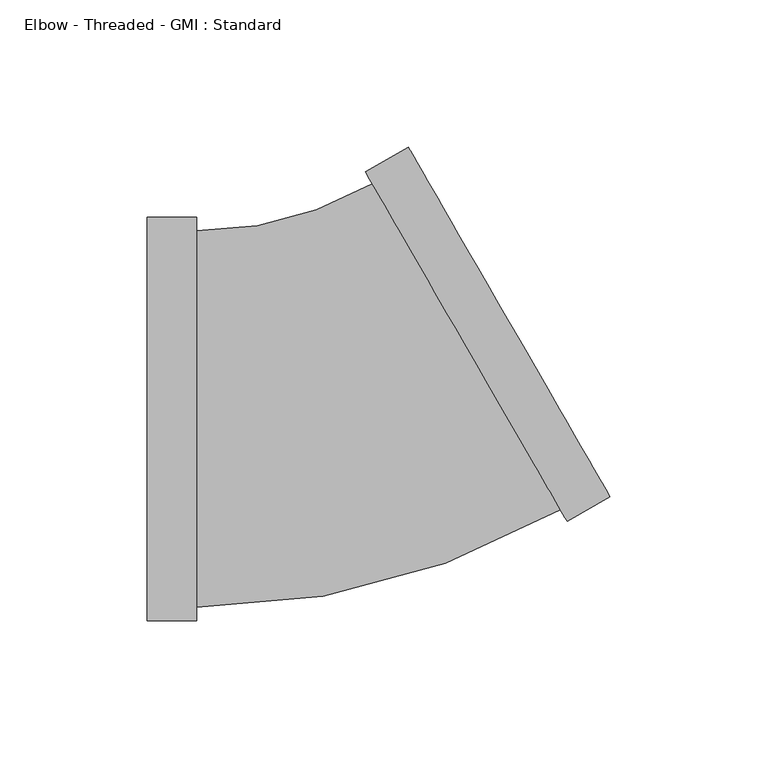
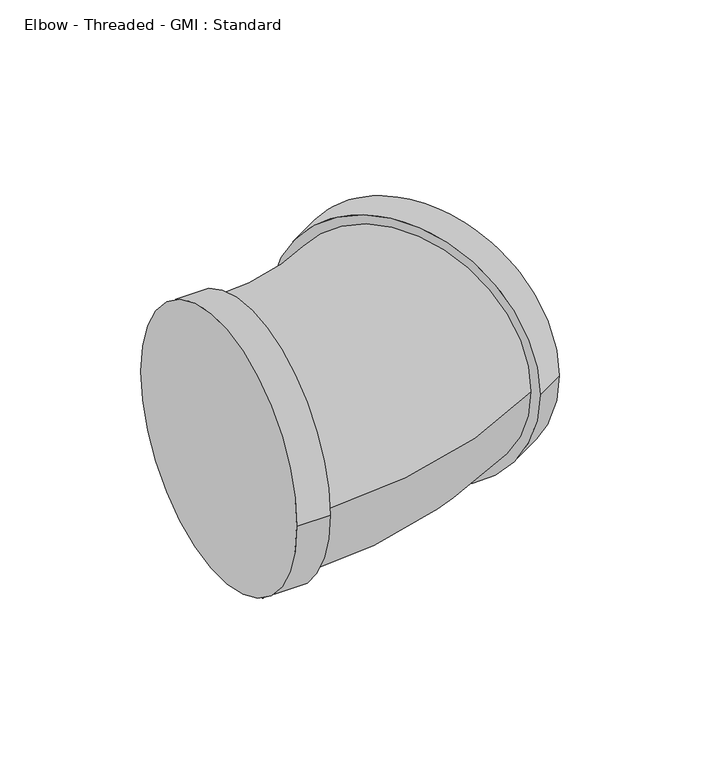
"""IFC4 building model written with IfcOpenShell, lengths in millimetres: pipe fitting geometry, Elbow - Threaded - GMI : Standard."""

from ifc_helpers import new_model, si_unit, point, frame, origin, place, context, project, spatial, circle_curve, ellipse_curve, trimmed, source, transform, mapped, element, save
from ifc_brep_helpers import plane_surface, cylinder_surface, revolved_surface, advanced_brep


def elbow_threaded_gmi_standard_113c305a(model_context):
    return source(origin(), model_context, "Body", "AdvancedBrep", [
        advanced_brep(
        [(-66.0, -68.6, 0.0), (-66.0, 68.6, 0.0), (-49.2, -68.6, 0.0), (-49.2, 68.6, 0.0), (-49.2, -63.93, 0.0), (-49.2, 63.93, 0.0), (76.9084499, -34.8093427, 0.0), (8.3084499, 84.0093427, 0.0), (10.6434499, 79.9650041, 0.0), (74.5734499, -30.7650041, 0.0), (91.4576766, -26.4093427, 0.0), (22.8576766, 92.4093427, 0.0)],
        [
            (0, 1, circle_curve(frame((-66.0, 0.0, 0.0), z_axis=(-1.0, 0.0, 0.0), x_axis=(0.0, 1.0, 0.0)), 68.6)),
            (1, 0, circle_curve(frame((-66.0, 0.0, 0.0), z_axis=(-1.0, 0.0, 0.0), x_axis=(0.0, 1.0, 0.0)), 68.6)),
            (2, 3, circle_curve(frame((-49.2, 0.0, 0.0), z_axis=(1.0, 0.0, 0.0), x_axis=(0.0, 1.0, 0.0)), 68.6)),
            (3, 2, circle_curve(frame((-49.2, 0.0, 0.0), z_axis=(1.0, 0.0, 0.0), x_axis=(0.0, 1.0, 0.0)), 68.6)),
            (4, 5, circle_curve(frame((-49.2, 0.0, 0.0), z_axis=(-1.0, 0.0, 0.0), x_axis=(0.0, 1.0, 0.0)), 63.93)),
            (5, 4, circle_curve(frame((-49.2, 0.0, 0.0), z_axis=(-1.0, 0.0, 0.0), x_axis=(0.0, 1.0, 0.0)), 63.93)),
            (0, 2),
            (3, 1),
            (6, 7, circle_curve(frame((42.6084499, 24.6, 0.0), z_axis=(-0.8660254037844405, -0.4999999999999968, 0.0), x_axis=(-0.4999999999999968, 0.8660254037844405, 0.0)), 68.6)),
            (7, 6, circle_curve(frame((42.6084499, 24.6, 0.0), z_axis=(-0.8660254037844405, -0.4999999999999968, 0.0), x_axis=(-0.4999999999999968, 0.8660254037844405, 0.0)), 68.6)),
            (8, 9, circle_curve(frame((42.6084499, 24.6, 0.0), z_axis=(0.8660254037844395, 0.4999999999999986, 0.0), x_axis=(-0.4999999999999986, 0.8660254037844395, 0.0)), 63.93)),
            (9, 8, circle_curve(frame((42.6084499, 24.6, 0.0), z_axis=(0.8660254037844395, 0.4999999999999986, 0.0), x_axis=(-0.4999999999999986, 0.8660254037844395, 0.0)), 63.93)),
            (10, 11, circle_curve(frame((57.1576766, 33.0, 0.0), z_axis=(0.8660254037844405, 0.4999999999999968, 0.0), x_axis=(-0.4999999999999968, 0.8660254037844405, 0.0)), 68.6)),
            (11, 10, circle_curve(frame((57.1576766, 33.0, 0.0), z_axis=(0.8660254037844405, 0.4999999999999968, 0.0), x_axis=(-0.4999999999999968, 0.8660254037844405, 0.0)), 68.6)),
            (6, 10),
            (11, 7),
            (8, 5, circle_curve(frame((-49.2, 183.6168997, 0.0), z_axis=(0.0, 0.0, -1.0), x_axis=(0.0, -1.0, 0.0)), 119.6868997)),
            (4, 9, circle_curve(frame((-49.2, 183.6168997, 0.0), z_axis=(0.0, 0.0, 1.0), x_axis=(0.0, -1.0, 0.0)), 247.5468997)),
        ],
        [
            plane_surface(frame((-66.0, 0.0, 0.0), z_axis=(-1.0, 0.0, 0.0), x_axis=(0.0, 0.0, 1.0))),
            plane_surface(frame((-49.2, 0.0, 0.0), z_axis=(1.0, 0.0, 0.0), x_axis=(0.0, 0.0, 1.0))),
            cylinder_surface(frame((-66.0, 0.0, 0.0), z_axis=(-1.0, 0.0, 0.0), x_axis=(0.0, 1.0, 0.0)), 68.6),
            plane_surface(frame((42.6084499, 24.6, 0.0), z_axis=(-0.8660254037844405, -0.4999999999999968, 0.0), x_axis=(0.0, 0.0, 1.0))),
            plane_surface(frame((57.1576766, 33.0, 0.0), z_axis=(0.8660254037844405, 0.4999999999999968, 0.0), x_axis=(0.0, 0.0, 1.0))),
            cylinder_surface(frame((42.6084499, 24.6, 0.0), z_axis=(-0.8660254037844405, -0.4999999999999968, 0.0), x_axis=(-0.4999999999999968, 0.8660254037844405, 0.0)), 68.6),
            revolved_surface(trimmed(ellipse_curve(frame((-49.2, 0.0, 0.0), z_axis=(-1.0, 0.0, 0.0), x_axis=(0.0, 1.0, 0.0)), 63.93, 63.93), [point((-49.2, -63.93, 0.0))], [point((-49.2, 63.93, 0.0))], True, "CARTESIAN"), (-49.2, 183.6168997, 0.0), (0.0, 0.0, 1.0)),
            revolved_surface(trimmed(ellipse_curve(frame((-49.2, 0.0, 0.0), z_axis=(-1.0, 0.0, 0.0), x_axis=(0.0, 1.0, 0.0)), 63.93, 63.93), [point((-49.2, 63.93, 0.0))], [point((-49.2, -63.93, 0.0))], True, "CARTESIAN"), (-49.2, 183.6168997, 0.0), (0.0, 0.0, 1.0)),
        ],
        [
            (0, [[1, 2]]),
            (1, [[3, 4], [5, 6]]),
            (2, [[-1, 7, -4, 8]]),
            (2, [[-2, -8, -3, -7]]),
            (3, [[9, 10], [11, 12]]),
            (4, [[13, 14]]),
            (5, [[-9, 15, -14, 16]]),
            (5, [[-10, -16, -13, -15]]),
            (6, [[17, -5, 18, -11]]),
            (7, [[-17, -12, -18, -6]]),
        ],
    ),
    ])


if __name__ == "__main__":
    model = new_model("IFC4")
    model_context = context("Model", 3, world=origin())
    ifc_project = project(units=[si_unit("LENGTHUNIT", "METRE", prefix="MILLI")], contexts=[model_context])
    site = spatial("IfcSite", under=ifc_project)
    building = spatial("IfcBuilding", under=site)
    placement = place(None, origin())
    elbow_threaded_gmi_standard_shape = elbow_threaded_gmi_standard_113c305a(model_context)
    element("IfcPipeFitting", 1, ObjectType="Elbow - Threaded - GMI : Standard", at=placement, inside=building, context=model_context, shape_type="MappedRepresentation", body=[
        mapped(elbow_threaded_gmi_standard_shape, transform((0.0, 0.0, 0.0), x_axis=(1.0, 0.0, 0.0), y_axis=(0.0, 1.0, 0.0), z_axis=(0.0, 0.0, 1.0))),
    ])
    save(model, "model.ifc")
